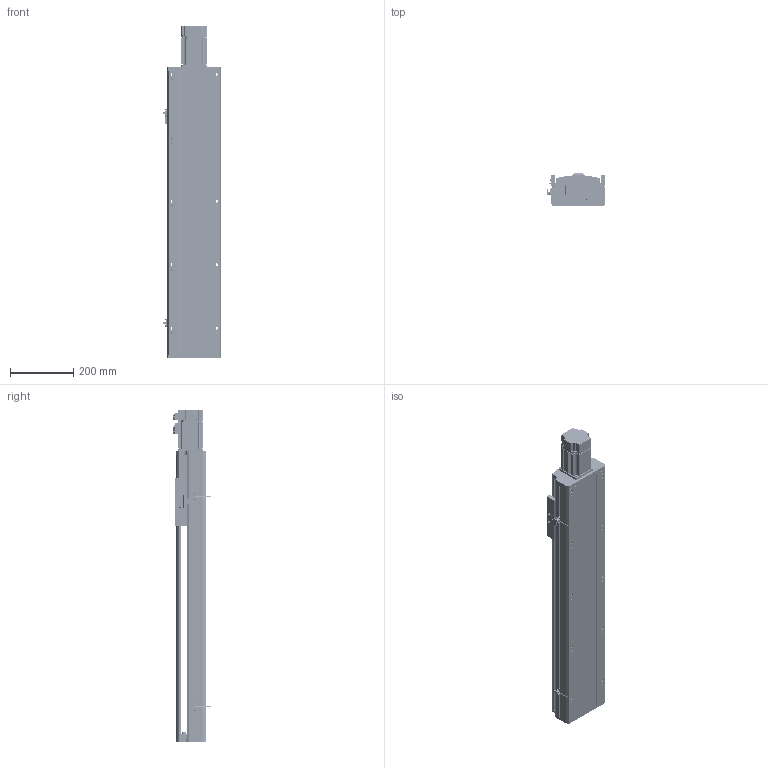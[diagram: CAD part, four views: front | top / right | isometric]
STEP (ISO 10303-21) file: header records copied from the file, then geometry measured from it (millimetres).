
FILE_DESCRIPTION (( 'STEP AP214' ), '1' );
FILE_NAME ('CTH170-650.STEP', '2019-11-25T08:55:52', ( '微软用户' ), ( '微软中国' ), 'SwSTEP 2.0', 'SolidWorks 2017', '' );
FILE_SCHEMA (( 'AUTOMOTIVE_DESIGN' ));
Length unit declared in the file: millimetre
Products named in the file (32): 遣喳蝶15x12x8-BR L; 支撑座^丝杠支撑座_CTH170-L10-200; B6002Z; _C-BSST2005_n; SFS2005-411-SZC; SFH2010佪裝; M3-L8囀鞠褒蹟佪; 80EMA-016A; EE-SX672峚倰換覜ん; 170萇儂啣; CT17耀郪-覜茼んえ; 170傷啣; M6-L20囀鞠褒蹟佪; EGH20CA; 蚾饜极3^CTH170-L10-200; M5-L20囀鞠褒蹟佪-BR L; M4-L10囀鞠褒蹟佪-BR L; M5-L10囀鞠褒蹟佪; 坶踡蹟簽M15x1; EGH20CA_BLOCK; 潔路遠COL15-A; EG20_RAIL; MISUMI_B7002-DB_盄俶絳砃粣; 170賑怢; BEARING_MISUMI_B7002-DB_盄俶絳砃粣; 170裔啣^CTH170-L10-200; 錨璃8^蚾饜极3_CTH170-L10-200; 錨璃2; 复件 轴承座^装配体3_CTH170-L10-200; 佪話盓傅釱^CTH170-L10-200; CTH170-650; M5-L16囀鞠褒蹟佪
Assembly tree (79 placements, depth 4):
  CTH170-650
    錨璃2
    170裔啣^CTH170-L10-200
    170賑怢
    EGH20CA  x2
      EG20_RAIL
      EGH20CA_BLOCK
      M5-L10囀鞠褒蹟佪
      M5-L20囀鞠褒蹟佪-BR L
    170傷啣
    170萇儂啣
    80EMA-016A
    SFS2005-411-SZC
      SFH2010佪裝
    _C-BSST2005_n
    佪話盓傅釱^CTH170-L10-200
      B6002Z
      支撑座^丝杠支撑座_CTH170-L10-200
      遣喳蝶15x12x8-BR L  x2
      M5-L16囀鞠褒蹟佪  x2
    蚾饜极3^CTH170-L10-200
      复件 轴承座^装配体3_CTH170-L10-200
      錨璃8^蚾饜极3_CTH170-L10-200
      MISUMI_B7002-DB_盄俶絳砃粣
        BEARING_MISUMI_B7002-DB_盄俶絳砃粣  x2
      潔路遠COL15-A  x2
      坶踡蹟簽M15x1
      M5-L16囀鞠褒蹟佪  x6
      M4-L10囀鞠褒蹟佪-BR L  x4
    遣喳蝶15x12x8-BR L  x2
    M6-L20囀鞠褒蹟佪  x4
    M4-L10囀鞠褒蹟佪-BR L  x10
    M5-L16囀鞠褒蹟佪  x4
    CT17耀郪-覜茼んえ
    EE-SX672峚倰換覜ん  x2
    M3-L8囀鞠褒蹟佪  x4
Bounding box: 183.7 x 117.95 x 1046 mm (x, y, z)
Volume: 6193549.5 mm3; surface area: 1876511.5 mm2
Topology: 91 solids, 92 shells, 5649 faces, 14823 edges, 9450 vertices
Faces by surface type: plane 3122, cylinder 1512, cone 633, bspline 342, torus 40
Entity records: 101000 total; most frequent: CARTESIAN_POINT 21433, ORIENTED_EDGE 14516, DIRECTION 14157, EDGE_CURVE 7258, AXIS2_PLACEMENT_3D 4936, VERTEX_POINT 4718, VECTOR 4285, LINE 4285
